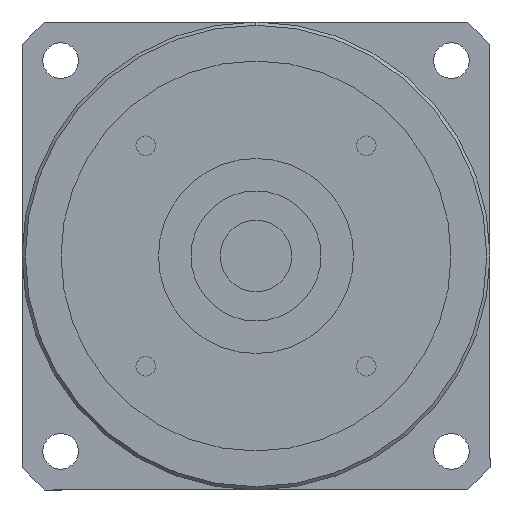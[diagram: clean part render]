
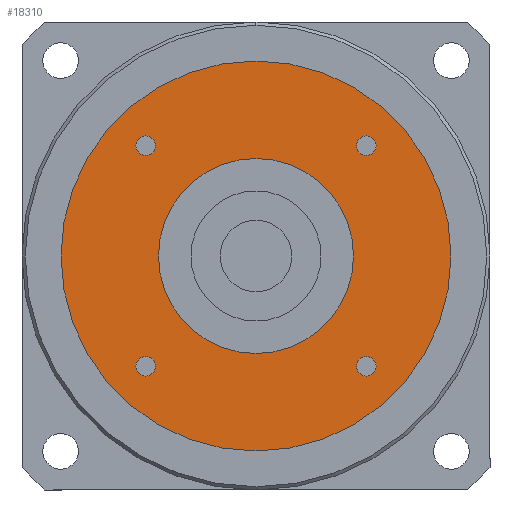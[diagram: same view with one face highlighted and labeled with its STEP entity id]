
A CAD part, left-side view. The second image highlights one B-rep face of the part: STEP entity #18310.
In plain terms, the highlighted planar face has unit normal (-1, 0, 0) as drawn and (0, 0, -1) by its records, which use the part's own axes.
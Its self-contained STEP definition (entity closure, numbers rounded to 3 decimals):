
#15130=CARTESIAN_POINT('',(-16.971,15.471,-92.));
#15140=VERTEX_POINT('',#15130);
#15320=CARTESIAN_POINT('',(-16.971,18.471,-92.));
#15330=VERTEX_POINT('',#15320);
#15360=CARTESIAN_POINT('',(-16.971,16.971,-92.));
#15370=DIRECTION('',(0.,0.,-1.));
#15380=DIRECTION('',(-1.,0.,0.));
#15390=AXIS2_PLACEMENT_3D('',#15360,#15370,#15380);
#15400=CIRCLE('',#15390,1.5);
#15410=CARTESIAN_POINT('',(-18.471,16.971,-92.));
#15420=VERTEX_POINT('',#15410);
#15430=EDGE_CURVE('',#15420,#15330,#15400,.T.);
#15450=EDGE_CURVE('',#15140,#15420,#15400,.T.);
#15590=CARTESIAN_POINT('',(15.471,16.971,-92.));
#15600=VERTEX_POINT('',#15590);
#15780=CARTESIAN_POINT('',(18.471,16.971,-92.));
#15790=VERTEX_POINT('',#15780);
#15820=CARTESIAN_POINT('',(16.971,16.971,-92.));
#15830=DIRECTION('',(0.,0.,-1.));
#15840=DIRECTION('',(0.,1.,0.));
#15850=AXIS2_PLACEMENT_3D('',#15820,#15830,#15840);
#15860=CIRCLE('',#15850,1.5);
#15870=CARTESIAN_POINT('',(16.971,18.471,-92.));
#15880=VERTEX_POINT('',#15870);
#15890=EDGE_CURVE('',#15880,#15790,#15860,.T.);
#15910=EDGE_CURVE('',#15600,#15880,#15860,.T.);
#17240=CARTESIAN_POINT('',(30.,0.,-92.));
#17250=VERTEX_POINT('',#17240);
#17280=CARTESIAN_POINT('',(0.,0.,
-92.));
#17290=DIRECTION('',(0.,0.,1.));
#17300=DIRECTION('',(0.,-1.,0.));
#17310=AXIS2_PLACEMENT_3D('',#17280,#17290,#17300);
#17320=CIRCLE('',#17310,30.);
#17330=CARTESIAN_POINT('',(0.,-30.,-92.));
#17340=VERTEX_POINT('',#17330);
#17350=EDGE_CURVE('',#17340,#17250,#17320,.T.);
#17370=CARTESIAN_POINT('',(-30.,0.,-92.));
#17380=VERTEX_POINT('',#17370);
#17390=EDGE_CURVE('',#17380,#17340,#17320,.T.);
#17510=CARTESIAN_POINT('',(0.,0.,
-92.));
#17520=DIRECTION('',(0.,0.,1.));
#17530=DIRECTION('',(-1.,0.,0.));
#17540=AXIS2_PLACEMENT_3D('',#17510,#17520,#17530);
#17550=PLANE('',#17540);
#17560=CARTESIAN_POINT('',(-16.971,-16.971,-92.));
#17570=DIRECTION('',(0.,0.,-1.));
#17580=DIRECTION('',(0.,-1.,0.));
#17590=AXIS2_PLACEMENT_3D('',#17560,#17570,#17580);
#17600=CIRCLE('',#17590,1.5);
#17610=CARTESIAN_POINT('',(-16.971,-18.471,-92.));
#17620=VERTEX_POINT('',#17610);
#17630=CARTESIAN_POINT('',(-18.471,-16.971,-92.));
#17640=VERTEX_POINT('',#17630);
#17650=EDGE_CURVE('',#17620,#17640,#17600,.T.);
#17660=ORIENTED_EDGE('',*,*,#17650,.F.);
#17670=CARTESIAN_POINT('',(-15.471,-16.971,-92.));
#17680=VERTEX_POINT('',#17670);
#17690=EDGE_CURVE('',#17640,#17680,#17600,.T.);
#17700=ORIENTED_EDGE('',*,*,#17690,.F.);
#17710=EDGE_CURVE('',#17680,#17620,#17600,.T.);
#17720=ORIENTED_EDGE('',*,*,#17710,.F.);
#17730=EDGE_LOOP('',(#17720,#17700,#17660));
#17740=FACE_BOUND('',#17730,.T.);
#17750=CARTESIAN_POINT('',(0.,0.,
-92.));
#17760=DIRECTION('',(0.,0.,1.));
#17770=DIRECTION('',(0.,-1.,0.));
#17780=AXIS2_PLACEMENT_3D('',#17750,#17760,#17770);
#17790=CIRCLE('',#17780,15.);
#17800=CARTESIAN_POINT('',(15.,0.,-92.));
#17810=VERTEX_POINT('',#17800);
#17820=CARTESIAN_POINT('',(-15.,0.,-92.));
#17830=VERTEX_POINT('',#17820);
#17840=EDGE_CURVE('',#17810,#17830,#17790,.T.);
#17850=ORIENTED_EDGE('',*,*,#17840,.T.);
#17860=CARTESIAN_POINT('',(0.,-15.,-92.));
#17870=VERTEX_POINT('',#17860);
#17880=EDGE_CURVE('',#17870,#17810,#17790,.T.);
#17890=ORIENTED_EDGE('',*,*,#17880,.T.);
#17900=EDGE_CURVE('',#17830,#17870,#17790,.T.);
#17910=ORIENTED_EDGE('',*,*,#17900,.T.);
#17920=EDGE_LOOP('',(#17910,#17890,#17850));
#17930=FACE_BOUND('',#17920,.T.);
#17940=CARTESIAN_POINT('',(16.971,-16.971,-92.));
#17950=DIRECTION('',(0.,0.,-1.));
#17960=DIRECTION('',(1.,0.,0.));
#17970=AXIS2_PLACEMENT_3D('',#17940,#17950,#17960);
#17980=CIRCLE('',#17970,1.5);
#17990=CARTESIAN_POINT('',(18.471,-16.971,-92.));
#18000=VERTEX_POINT('',#17990);
#18010=CARTESIAN_POINT('',(16.971,-18.471,-92.));
#18020=VERTEX_POINT('',#18010);
#18030=EDGE_CURVE('',#18000,#18020,#17980,.T.);
#18040=ORIENTED_EDGE('',*,*,#18030,.F.);
#18050=CARTESIAN_POINT('',(16.971,-15.471,-92.));
#18060=VERTEX_POINT('',#18050);
#18070=EDGE_CURVE('',#18020,#18060,#17980,.T.);
#18080=ORIENTED_EDGE('',*,*,#18070,.F.);
#18090=EDGE_CURVE('',#18060,#18000,#17980,.T.);
#18100=ORIENTED_EDGE('',*,*,#18090,.F.);
#18110=EDGE_LOOP('',(#18100,#18080,#18040));
#18120=FACE_BOUND('',#18110,.T.);
#18130=ORIENTED_EDGE('',*,*,#15890,.F.);
#18140=EDGE_CURVE('',#15790,#15600,#15860,.T.);
#18150=ORIENTED_EDGE('',*,*,#18140,.F.);
#18160=ORIENTED_EDGE('',*,*,#15910,.F.);
#18170=EDGE_LOOP('',(#18160,#18150,#18130));
#18180=FACE_BOUND('',#18170,.T.);
#18190=ORIENTED_EDGE('',*,*,#15430,.F.);
#18200=EDGE_CURVE('',#15330,#15140,#15400,.T.);
#18210=ORIENTED_EDGE('',*,*,#18200,.F.);
#18220=ORIENTED_EDGE('',*,*,#15450,.F.);
#18230=EDGE_LOOP('',(#18220,#18210,#18190));
#18240=FACE_BOUND('',#18230,.T.);
#18250=ORIENTED_EDGE('',*,*,#17350,.F.);
#18260=EDGE_CURVE('',#17250,#17380,#17320,.T.);
#18270=ORIENTED_EDGE('',*,*,#18260,.F.);
#18280=ORIENTED_EDGE('',*,*,#17390,.F.);
#18290=EDGE_LOOP('',(#18280,#18270,#18250));
#18300=FACE_OUTER_BOUND('',#18290,.T.);
#18310=ADVANCED_FACE('',(#17740,#17930,#18120,#18180,#18240,#18300),
#17550,.F.);
